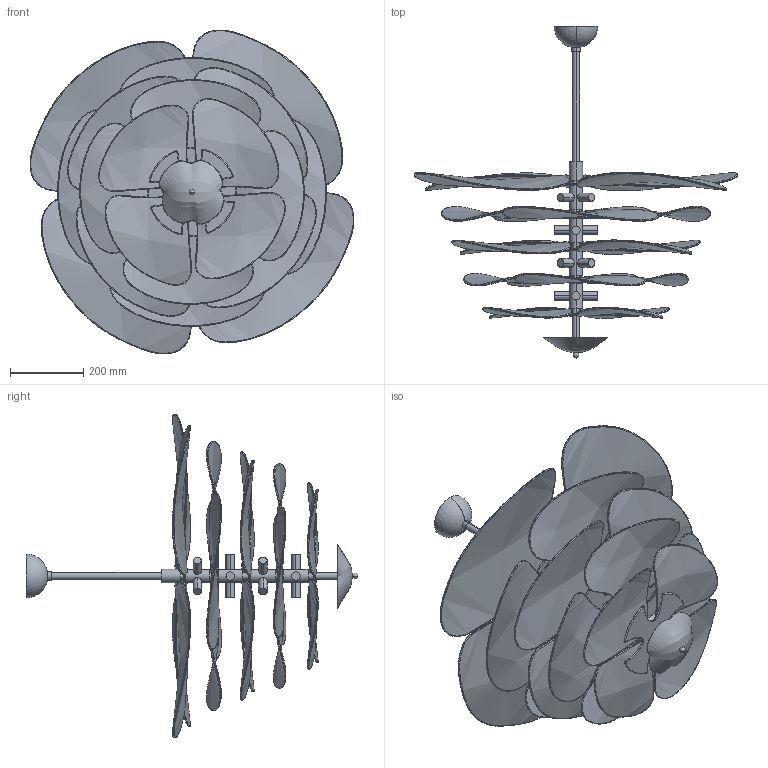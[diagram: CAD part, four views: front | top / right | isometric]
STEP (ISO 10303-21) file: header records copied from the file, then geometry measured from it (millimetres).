
FILE_DESCRIPTION (( 'STEP AP203' ), '1' );
FILE_NAME ('Petals Gold Murano Chandelier-6Layers.STEP', '2024-12-12T10:27:53', ( '' ), ( '' ), 'SwSTEP 2.0', 'SolidWorks 2022', '' );
FILE_SCHEMA (( 'CONFIG_CONTROL_DESIGN' ));
Products named in the file (1): Petals Gold Murano Chandelier-6Layers
Bounding box: 887.12 x 909.41 x 887.12 mm (x, y, z)
Volume: 8312557.2 mm3; surface area: 4006629.6 mm2
Topology: 91 solids, 91 shells, 684 faces, 1585 edges, 916 vertices
Faces by surface type: torus 290, sphere 166, bspline 125, plane 57, cylinder 46
Entity records: 132212 total; most frequent: CARTESIAN_POINT 118091, DIRECTION 3300, ORIENTED_EDGE 2660, AXIS2_PLACEMENT_3D 1627, EDGE_CURVE 1330, CIRCLE 1067, VERTEX_POINT 829, EDGE_LOOP 685
